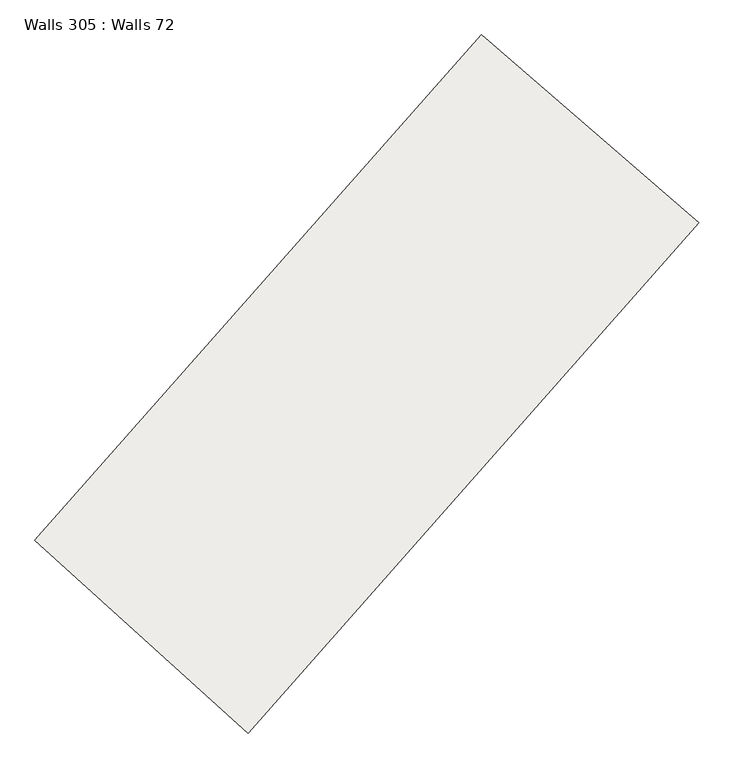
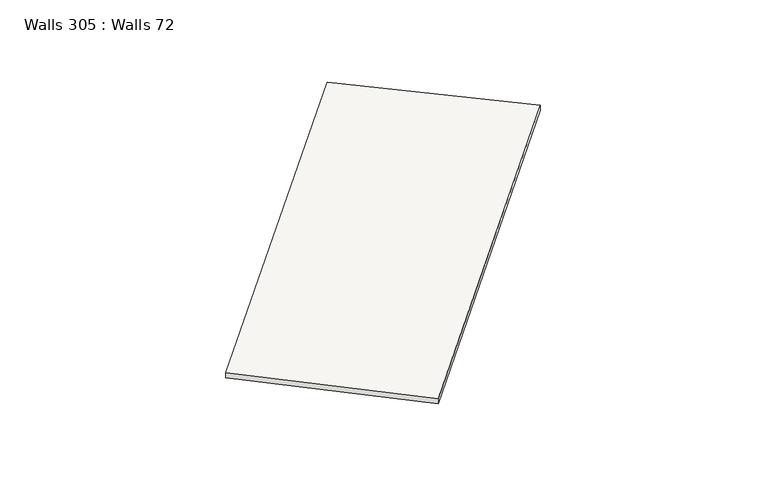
"""IFC4 building model written with IfcOpenShell, lengths in millimetres: slab geometry, Walls 305 : Walls 72."""

from ifc_helpers import new_model, si_unit, frame, origin, place, context, project, spatial, source, transform, mapped, element, save
from ifc_brep_helpers import plane_surface, spline_curve, spline_surface, advanced_brep


def walls_305_walls_72_4a3d2b23(model_context):
    return source(origin(), model_context, "Body", "AdvancedBrep", [
        advanced_brep(
        [(51633.6617327, -100313.7191349, 638790.0), (51633.6617327, -100313.7191349, 638890.0), (54432.5728274, -102733.6564654, 638890.0), (54432.5728274, -102733.6564654, 638790.0), (45885.382253, -106817.8786355, 638700.0), (48631.0018566, -109298.1151146, 638700.0), (48631.0018566, -109298.1151146, 638800.0), (45885.382253, -106817.8786355, 638800.0)],
        [
            (0, 1),
            (1, 2),
            (2, 3),
            (3, 0),
            (4, 5),
            (5, 6),
            (6, 7),
            (7, 4),
            (4, 0, spline_curve(3, [(45885.382253, -106817.8786355, 638700.0), (47824.977454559, -104670.748451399, 638730.000000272), (49741.221687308, -102502.52434534, 638759.999999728), (51633.6617327, -100313.7191349, 638790.0)], [4, 4], [0.0, 28.61247819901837])),
            (3, 5, spline_curve(3, [(54432.5728274, -102733.6564654, 638790.0), (52522.588236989, -104942.753781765, 638759.999999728), (50588.578772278, -107131.079188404, 638730.000000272), (48631.0018566, -109298.1151146, 638700.0)], [4, 4], [0.0, 28.61247819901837])),
            (6, 2, spline_curve(3, [(48631.0018566, -109298.1151146, 638800.0), (50588.578772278, -107131.079188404, 638830.000000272), (52522.588236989, -104942.753781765, 638859.999999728), (54432.5728274, -102733.6564654, 638890.0)], [4, 4], [0.0, 28.61247819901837])),
            (1, 7, spline_curve(3, [(51633.6617327, -100313.7191349, 638890.0), (49741.221687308, -102502.52434534, 638859.999999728), (47824.977454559, -104670.748451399, 638830.000000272), (45885.382253, -106817.8786355, 638800.0)], [4, 4], [0.0, 28.61247819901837])),
        ],
        [
            plane_surface(frame((53033.1172801, -101523.6878001, 638840.0), z_axis=(0.6540371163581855, 0.7564624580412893, 0.0), x_axis=(0.7564624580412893, -0.6540371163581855, 0.0))),
            plane_surface(frame((47258.1920548, -108057.996875, 638750.0), z_axis=(-0.670334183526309, -0.7420593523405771, 0.0), x_axis=(0.0, 0.0, 1.0))),
            spline_surface(3, 3, [[(48631.0018566, -109298.1151146, 638700.0), (50588.578772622, -107131.079188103, 638730.0), (52522.588236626, -104942.753781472, 638760.0), (54432.5728274, -102733.6564654, 638790.0)], [(47715.795322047, -108471.369621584, 638700.0), (49667.378333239, -106310.968942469, 638730.0), (51595.466053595, -104129.343969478, 638760.0), (53499.602462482, -101927.010688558, 638790.0)], [(46800.588787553, -107644.624128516, 638700.0), (48746.177893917, -105490.858696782, 638730.0), (50668.343870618, -103315.93415751, 638760.0), (52566.632097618, -101120.364911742, 638790.0)], [(45885.382253, -106817.8786355, 638700.0), (47824.977454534, -104670.748451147, 638730.0), (49741.221687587, -102502.524345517, 638760.0), (51633.6617327, -100313.7191349, 638790.0)]], [4, 4], [4, 4], [0.0, 12.139107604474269], [0.0, 28.61247819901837]),
            spline_surface(3, 3, [[(45885.382253, -106817.8786355, 638800.0), (47824.977454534, -104670.748451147, 638830.0), (49741.221687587, -102502.524345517, 638860.0), (51633.6617327, -100313.7191349, 638890.0)], [(46800.588787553, -107644.624128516, 638800.0), (48746.177893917, -105490.858696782, 638830.0), (50668.343870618, -103315.93415751, 638860.0), (52566.632097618, -101120.364911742, 638890.0)], [(47715.795322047, -108471.369621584, 638800.0), (49667.378333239, -106310.968942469, 638830.0), (51595.466053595, -104129.343969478, 638860.0), (53499.602462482, -101927.010688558, 638890.0)], [(48631.0018566, -109298.1151146, 638800.0), (50588.578772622, -107131.079188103, 638830.0), (52522.588236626, -104942.753781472, 638860.0), (54432.5728274, -102733.6564654, 638890.0)]], [4, 4], [4, 4], [0.0, 12.139107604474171], [0.0, 28.61247819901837]),
            spline_surface(3, 3, [[(45885.382253, -106817.8786355, 638700.0), (47824.977454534, -104670.748451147, 638730.0), (49741.221687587, -102502.524345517, 638760.0), (51633.6617327, -100313.7191349, 638790.0)], [(45885.382253, -106817.8786355, 638733.333333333), (47824.977454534, -104670.748451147, 638763.333333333), (49741.221687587, -102502.524345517, 638793.333333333), (51633.6617327, -100313.7191349, 638823.333333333)], [(45885.382253, -106817.8786355, 638766.666666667), (47824.977454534, -104670.748451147, 638796.666666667), (49741.221687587, -102502.524345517, 638826.666666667), (51633.6617327, -100313.7191349, 638856.666666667)], [(45885.382253, -106817.8786355, 638800.0), (47824.977454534, -104670.748451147, 638830.0), (49741.221687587, -102502.524345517, 638860.0), (51633.6617327, -100313.7191349, 638890.0)]], [4, 4], [4, 4], [0.0, 0.3280839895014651], [0.0, 28.480473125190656]),
            spline_surface(3, 3, [[(48631.0018566, -109298.1151146, 638800.0), (50588.578772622, -107131.079188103, 638830.0), (52522.588236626, -104942.753781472, 638860.0), (54432.5728274, -102733.6564654, 638890.0)], [(48631.0018566, -109298.1151146, 638766.666666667), (50588.578772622, -107131.079188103, 638796.666666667), (52522.588236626, -104942.753781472, 638826.666666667), (54432.5728274, -102733.6564654, 638856.666666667)], [(48631.0018566, -109298.1151146, 638733.333333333), (50588.578772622, -107131.079188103, 638763.333333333), (52522.588236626, -104942.753781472, 638793.333333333), (54432.5728274, -102733.6564654, 638823.333333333)], [(48631.0018566, -109298.1151146, 638700.0), (50588.578772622, -107131.079188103, 638730.0), (52522.588236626, -104942.753781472, 638760.0), (54432.5728274, -102733.6564654, 638790.0)]], [4, 4], [4, 4], [0.0, 0.3280839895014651], [0.0, 28.744483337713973]),
        ],
        [
            (0, [[1, 2, 3, 4]]),
            (1, [[5, 6, 7, 8]]),
            (2, [[-5, 9, -4, 10]]),
            (3, [[-7, 11, -2, 12]]),
            (4, [[-8, -12, -1, -9]]),
            (5, [[-6, -10, -3, -11]]),
        ],
    ),
    ])


if __name__ == "__main__":
    model = new_model("IFC4")
    model_context = context("Model", 3, world=origin())
    ifc_project = project(units=[si_unit("LENGTHUNIT", "METRE", prefix="MILLI")], contexts=[model_context])
    site = spatial("IfcSite", under=ifc_project)
    building = spatial("IfcBuilding", under=site)
    placement = place(None, origin())
    walls_305_walls_72_shape = walls_305_walls_72_4a3d2b23(model_context)
    element("IfcSlab", 1, ObjectType="Walls 305 : Walls 72", at=placement, inside=building, context=model_context, shape_type="MappedRepresentation", body=[
        mapped(walls_305_walls_72_shape, transform((0.0, 0.0, 0.0), x_axis=(1.0, 0.0, 0.0), y_axis=(0.0, 1.0, 0.0), z_axis=(0.0, 0.0, 1.0))),
    ])
    save(model, "model.ifc")
